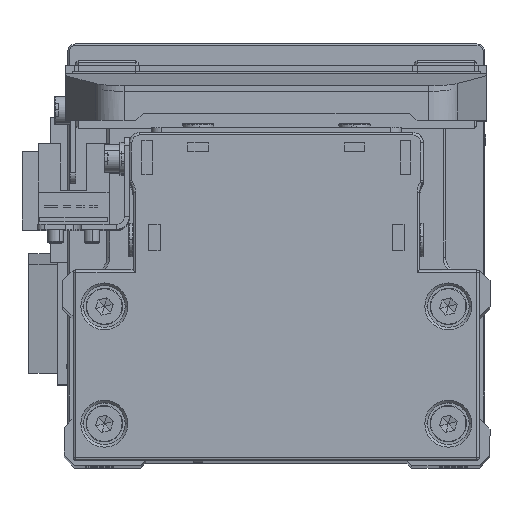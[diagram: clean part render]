
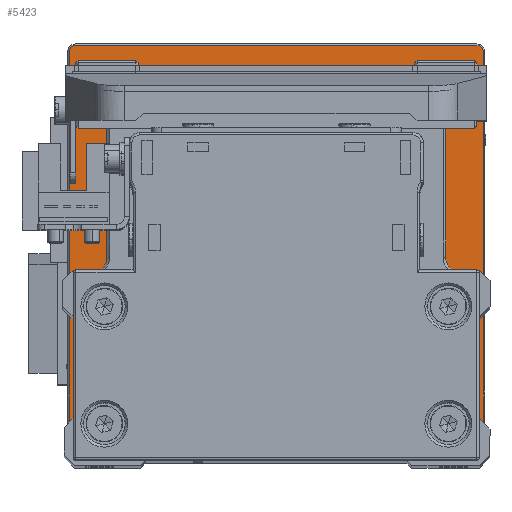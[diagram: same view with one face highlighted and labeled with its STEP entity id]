
A CAD part, top view. The second image highlights one B-rep face of the part: STEP entity #5423.
In plain terms, the highlighted planar face has unit normal (0, 0, 1) as drawn and (0, 1, 0) by its records, which use the part's own axes.
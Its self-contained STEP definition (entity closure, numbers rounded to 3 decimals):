
#702 = ORIENTED_EDGE ( 'NONE', *, *, #27530, .T. ) ;
#833 = VECTOR ( 'NONE', #13284, 1000. ) ;
#1097 = CARTESIAN_POINT ( 'NONE',  ( 38.5, 12., -38.5 ) ) ;
#1123 = CIRCLE ( 'NONE', #6179, 1.2 ) ;
#1246 = CARTESIAN_POINT ( 'NONE',  ( -39.7, 12., 0. ) ) ;
#1653 = CIRCLE ( 'NONE', #23708, 20.5 ) ;
#2209 = CARTESIAN_POINT ( 'NONE',  ( 0., 12., 0. ) ) ;
#2263 = VERTEX_POINT ( 'NONE', #21524 ) ;
#2559 = ORIENTED_EDGE ( 'NONE', *, *, #14590, .T. ) ;
#3088 = AXIS2_PLACEMENT_3D ( 'NONE', #38498, #11495, #23514 ) ;
#3466 = DIRECTION ( 'NONE',  ( 0., 0., -1. ) ) ;
#3834 = AXIS2_PLACEMENT_3D ( 'NONE', #22887, #34906, #7899 ) ;
#4841 = DIRECTION ( 'NONE',  ( 0., 1., 0. ) ) ;
#5423 = ADVANCED_FACE ( 'NONE', ( #21428, #33449 ), #6436, .F. ) ;
#5496 = DIRECTION ( 'NONE',  ( 0., 1., 0. ) ) ;
#6147 = AXIS2_PLACEMENT_3D ( 'NONE', #32498, #5496, #17545 ) ;
#6179 = AXIS2_PLACEMENT_3D ( 'NONE', #31845, #4841, #16891 ) ;
#6199 = EDGE_CURVE ( 'NONE', #30881, #20977, #20113, .T. ) ;
#6436 = PLANE ( 'NONE',  #12087 ) ;
#7519 = VERTEX_POINT ( 'NONE', #29643 ) ;
#7899 = DIRECTION ( 'NONE',  ( 0., 0., 1. ) ) ;
#8065 = ORIENTED_EDGE ( 'NONE', *, *, #12160, .T. ) ;
#8888 = CARTESIAN_POINT ( 'NONE',  ( -39.7, 12., -38.5 ) ) ;
#9366 = DIRECTION ( 'NONE',  ( -1., 0., 0. ) ) ;
#10519 = EDGE_LOOP ( 'NONE', ( #2559, #702, #33853, #15930, #29607, #8065, #20066, #36882 ) ) ;
#11495 = DIRECTION ( 'NONE',  ( 0., 1., 0. ) ) ;
#11641 = LINE ( 'NONE', #23660, #31624 ) ;
#12087 = AXIS2_PLACEMENT_3D ( 'NONE', #18475, #30490, #3466 ) ;
#12160 = EDGE_CURVE ( 'NONE', #20977, #29528, #11641, .T. ) ;
#12704 = CARTESIAN_POINT ( 'NONE',  ( -38.5, 12., -39.7 ) ) ;
#13138 = DIRECTION ( 'NONE',  ( 0., 1., 0. ) ) ;
#13284 = DIRECTION ( 'NONE',  ( 0., 0., 1. ) ) ;
#13289 = LINE ( 'NONE', #25319, #14165 ) ;
#14165 = VECTOR ( 'NONE', #37335, 1000. ) ;
#14244 = DIRECTION ( 'NONE',  ( 0., 1., 0. ) ) ;
#14590 = EDGE_CURVE ( 'NONE', #31075, #25113, #16892, .T. ) ;
#14694 = EDGE_CURVE ( 'NONE', #25733, #15233, #1123, .T. ) ;
#15233 = VERTEX_POINT ( 'NONE', #8888 ) ;
#15927 = EDGE_LOOP ( 'NONE', ( #38109, #27185 ) ) ;
#15930 = ORIENTED_EDGE ( 'NONE', *, *, #27661, .T. ) ;
#16597 = VECTOR ( 'NONE', #9366, 1000. ) ;
#16678 = CARTESIAN_POINT ( 'NONE',  ( -39.7, 12., 38.5 ) ) ;
#16891 = DIRECTION ( 'NONE',  ( 0., 0., -1. ) ) ;
#16892 = CIRCLE ( 'NONE', #38910, 1.2 ) ;
#17545 = DIRECTION ( 'NONE',  ( 0., 0., -1. ) ) ;
#18475 = CARTESIAN_POINT ( 'NONE',  ( 0., 12., 0. ) ) ;
#18922 = EDGE_CURVE ( 'NONE', #29528, #27655, #23143, .T. ) ;
#19208 = CARTESIAN_POINT ( 'NONE',  ( 39.7, 12., 38.5 ) ) ;
#19435 = CARTESIAN_POINT ( 'NONE',  ( -38.5, 12., 39.7 ) ) ;
#20066 = ORIENTED_EDGE ( 'NONE', *, *, #18922, .T. ) ;
#20113 = CIRCLE ( 'NONE', #3088, 1.2 ) ;
#20843 = CIRCLE ( 'NONE', #3834, 20.5 ) ;
#20977 = VERTEX_POINT ( 'NONE', #19435 ) ;
#21428 = FACE_OUTER_BOUND ( 'NONE', #10519, .T. ) ;
#21524 = CARTESIAN_POINT ( 'NONE',  ( 0., 12., 20.5 ) ) ;
#22887 = CARTESIAN_POINT ( 'NONE',  ( 0., 12., 0. ) ) ;
#23143 = CIRCLE ( 'NONE', #6147, 1.2 ) ;
#23514 = DIRECTION ( 'NONE',  ( 0., 0., -1. ) ) ;
#23660 = CARTESIAN_POINT ( 'NONE',  ( 0., 12., 39.7 ) ) ;
#23708 = AXIS2_PLACEMENT_3D ( 'NONE', #2209, #14244, #26283 ) ;
#24334 = LINE ( 'NONE', #36358, #16597 ) ;
#24370 = EDGE_CURVE ( 'NONE', #2263, #7519, #1653, .T. ) ;
#25113 = VERTEX_POINT ( 'NONE', #34089 ) ;
#25167 = DIRECTION ( 'NONE',  ( 0., 0., -1. ) ) ;
#25319 = CARTESIAN_POINT ( 'NONE',  ( 39.7, 12., 0. ) ) ;
#25733 = VERTEX_POINT ( 'NONE', #12704 ) ;
#26283 = DIRECTION ( 'NONE',  ( 0., 0., 1. ) ) ;
#27185 = ORIENTED_EDGE ( 'NONE', *, *, #33028, .F. ) ;
#27530 = EDGE_CURVE ( 'NONE', #25113, #25733, #24334, .T. ) ;
#27655 = VERTEX_POINT ( 'NONE', #19208 ) ;
#27661 = EDGE_CURVE ( 'NONE', #15233, #30881, #28274, .T. ) ;
#28274 = LINE ( 'NONE', #1246, #833 ) ;
#28813 = CARTESIAN_POINT ( 'NONE',  ( 38.5, 12., 39.7 ) ) ;
#28971 = EDGE_CURVE ( 'NONE', #27655, #31075, #13289, .T. ) ;
#29528 = VERTEX_POINT ( 'NONE', #28813 ) ;
#29607 = ORIENTED_EDGE ( 'NONE', *, *, #6199, .T. ) ;
#29643 = CARTESIAN_POINT ( 'NONE',  ( 0., 12., -20.5 ) ) ;
#30063 = CARTESIAN_POINT ( 'NONE',  ( 39.7, 12., -38.5 ) ) ;
#30490 = DIRECTION ( 'NONE',  ( 0., -1., 0. ) ) ;
#30881 = VERTEX_POINT ( 'NONE', #16678 ) ;
#31075 = VERTEX_POINT ( 'NONE', #30063 ) ;
#31624 = VECTOR ( 'NONE', #35685, 1000. ) ;
#31845 = CARTESIAN_POINT ( 'NONE',  ( -38.5, 12., -38.5 ) ) ;
#32498 = CARTESIAN_POINT ( 'NONE',  ( 38.5, 12., 38.5 ) ) ;
#33028 = EDGE_CURVE ( 'NONE', #7519, #2263, #20843, .T. ) ;
#33449 = FACE_BOUND ( 'NONE', #15927, .T. ) ;
#33853 = ORIENTED_EDGE ( 'NONE', *, *, #14694, .T. ) ;
#34089 = CARTESIAN_POINT ( 'NONE',  ( 38.5, 12., -39.7 ) ) ;
#34906 = DIRECTION ( 'NONE',  ( 0., 1., 0. ) ) ;
#35685 = DIRECTION ( 'NONE',  ( 1., 0., 0. ) ) ;
#36358 = CARTESIAN_POINT ( 'NONE',  ( 0., 12., -39.7 ) ) ;
#36882 = ORIENTED_EDGE ( 'NONE', *, *, #28971, .T. ) ;
#37335 = DIRECTION ( 'NONE',  ( 0., 0., -1. ) ) ;
#38109 = ORIENTED_EDGE ( 'NONE', *, *, #24370, .F. ) ;
#38498 = CARTESIAN_POINT ( 'NONE',  ( -38.5, 12., 38.5 ) ) ;
#38910 = AXIS2_PLACEMENT_3D ( 'NONE', #1097, #13138, #25167 ) ;
